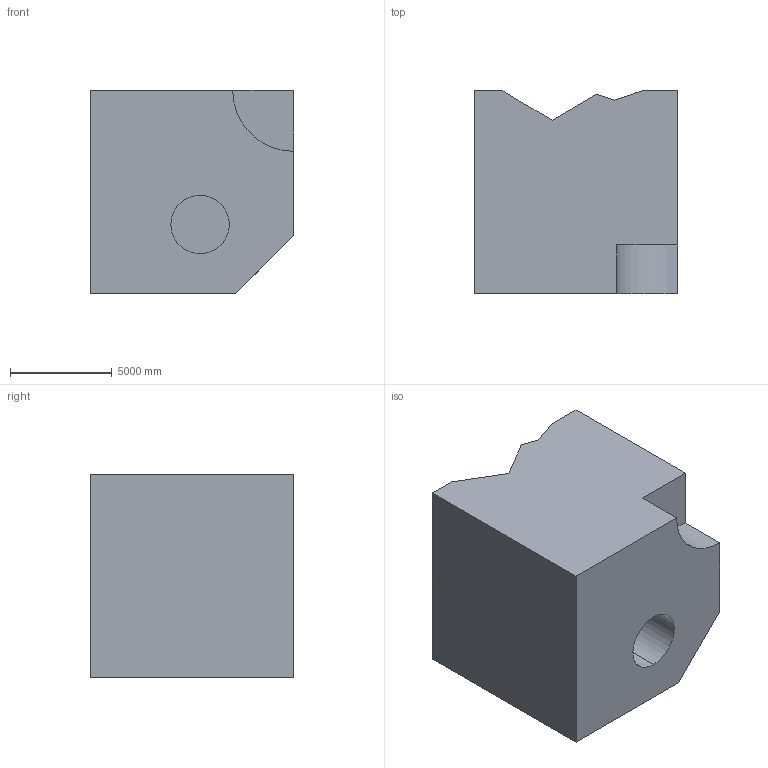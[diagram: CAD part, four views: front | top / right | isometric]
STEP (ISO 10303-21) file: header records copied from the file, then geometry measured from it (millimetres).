
FILE_DESCRIPTION (( 'STEP AP203' ), '1' );
FILE_NAME ('470.STEP', '2022-07-29T11:24:35', ( 'user' ), ( '' ), 'SwSTEP 2.0', 'SolidWorks 2021', '' );
FILE_SCHEMA (( 'CONFIG_CONTROL_DESIGN' ));
Length unit declared in the file: centimetre
Products named in the file (1): 470
Bounding box: 10000 x 10000 x 10000 mm (x, y, z)
Volume: 880682875603.6 mm3; surface area: 597159179.9 mm2
Topology: 1 solids, 1 shells, 17 faces, 42 edges, 28 vertices
Faces by surface type: plane 14, cylinder 3
Entity records: 579 total; most frequent: CARTESIAN_POINT 88, ORIENTED_EDGE 84, DIRECTION 84, EDGE_CURVE 42, LINE 36, VECTOR 36, VERTEX_POINT 28, AXIS2_PLACEMENT_3D 24
